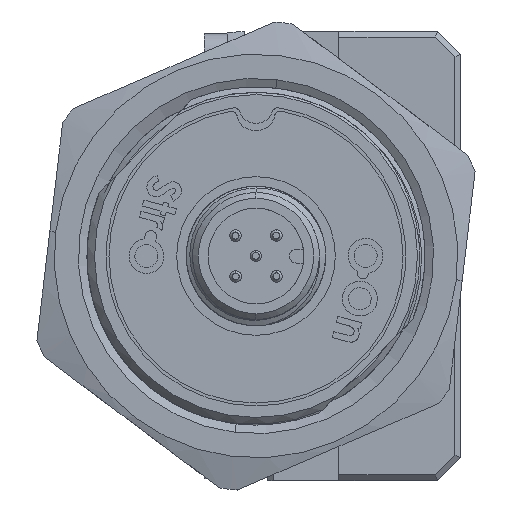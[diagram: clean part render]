
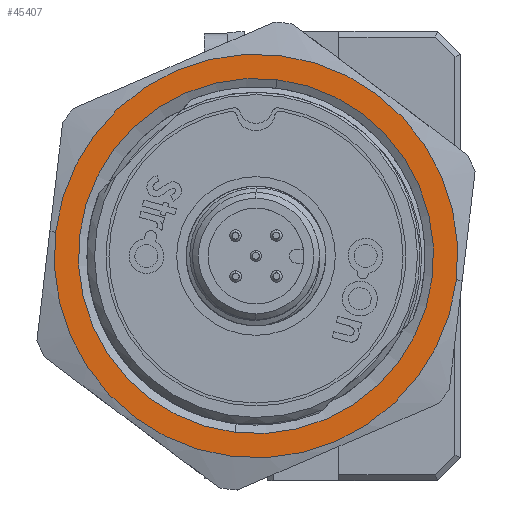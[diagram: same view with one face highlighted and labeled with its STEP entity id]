
A CAD part, front view. The second image highlights one B-rep face of the part: STEP entity #45407.
In plain terms, the highlighted planar face has unit normal (0, -1, 0) as drawn and (0, 0, 1) by its records, which use the part's own axes.
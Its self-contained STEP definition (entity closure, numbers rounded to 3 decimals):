
#6756 = VERTEX_POINT ( 'NONE', #102945 ) ;
#12097 = DIRECTION ( 'NONE',  ( 0., 0., -1. ) ) ;
#17399 = EDGE_LOOP ( 'NONE', ( #19339, #195049 ) ) ;
#18067 = CIRCLE ( 'NONE', #42706, 15.4 ) ;
#19339 = ORIENTED_EDGE ( 'NONE', *, *, #63006, .F. ) ;
#22026 = DIRECTION ( 'NONE',  ( -1., 0., 0. ) ) ;
#31433 = CARTESIAN_POINT ( 'NONE',  ( -8.624, 25.763, 5. ) ) ;
#34853 = EDGE_CURVE ( 'NONE', #6756, #232587, #54423, .T. ) ;
#42706 = AXIS2_PLACEMENT_3D ( 'NONE', #147596, #248040, #129540 ) ;
#45407 = ADVANCED_FACE ( 'NONE', ( #209127, #151154 ), #109996, .F. ) ;
#48993 = ORIENTED_EDGE ( 'NONE', *, *, #126103, .T. ) ;
#54423 = CIRCLE ( 'NONE', #120257, 17.5 ) ;
#63006 = EDGE_CURVE ( 'NONE', #232587, #6756, #183572, .T. ) ;
#77468 = DIRECTION ( 'NONE',  ( 0., 0., -1. ) ) ;
#79498 = DIRECTION ( 'NONE',  ( -1., 0., 0. ) ) ;
#83135 = CARTESIAN_POINT ( 'NONE',  ( -17.5, 0., 5. ) ) ;
#87677 = AXIS2_PLACEMENT_3D ( 'NONE', #183711, #110200, #227426 ) ;
#97553 = DIRECTION ( 'NONE',  ( 0., 0., -1. ) ) ;
#99811 = VERTEX_POINT ( 'NONE', #106491 ) ;
#102945 = CARTESIAN_POINT ( 'NONE',  ( 17.5, 0., 5. ) ) ;
#106491 = CARTESIAN_POINT ( 'NONE',  ( 0., 15.4, 5. ) ) ;
#109996 = PLANE ( 'NONE',  #213937 ) ;
#110200 = DIRECTION ( 'NONE',  ( 0., 0., -1. ) ) ;
#116556 = CIRCLE ( 'NONE', #87677, 15.4 ) ;
#120257 = AXIS2_PLACEMENT_3D ( 'NONE', #195950, #77468, #22026 ) ;
#126103 = EDGE_CURVE ( 'NONE', #179556, #99811, #116556, .T. ) ;
#129540 = DIRECTION ( 'NONE',  ( 0., -1., 0. ) ) ;
#142371 = AXIS2_PLACEMENT_3D ( 'NONE', #197951, #97553, #79498 ) ;
#147596 = CARTESIAN_POINT ( 'NONE',  ( 0., 0., 5. ) ) ;
#151154 = FACE_BOUND ( 'NONE', #195751, .T. ) ;
#157776 = CARTESIAN_POINT ( 'NONE',  ( 0., -15.4, 5. ) ) ;
#174834 = ORIENTED_EDGE ( 'NONE', *, *, #176851, .T. ) ;
#176851 = EDGE_CURVE ( 'NONE', #99811, #179556, #18067, .T. ) ;
#179556 = VERTEX_POINT ( 'NONE', #157776 ) ;
#183572 = CIRCLE ( 'NONE', #142371, 17.5 ) ;
#183711 = CARTESIAN_POINT ( 'NONE',  ( 0., 0., 5. ) ) ;
#191085 = DIRECTION ( 'NONE',  ( -1., 0., 0. ) ) ;
#195049 = ORIENTED_EDGE ( 'NONE', *, *, #34853, .F. ) ;
#195751 = EDGE_LOOP ( 'NONE', ( #48993, #174834 ) ) ;
#195950 = CARTESIAN_POINT ( 'NONE',  ( 0., 0., 5. ) ) ;
#197951 = CARTESIAN_POINT ( 'NONE',  ( 0., 0., 5. ) ) ;
#209127 = FACE_OUTER_BOUND ( 'NONE', #17399, .T. ) ;
#213937 = AXIS2_PLACEMENT_3D ( 'NONE', #31433, #12097, #191085 ) ;
#227426 = DIRECTION ( 'NONE',  ( 0., -1., 0. ) ) ;
#232587 = VERTEX_POINT ( 'NONE', #83135 ) ;
#248040 = DIRECTION ( 'NONE',  ( 0., 0., -1. ) ) ;
